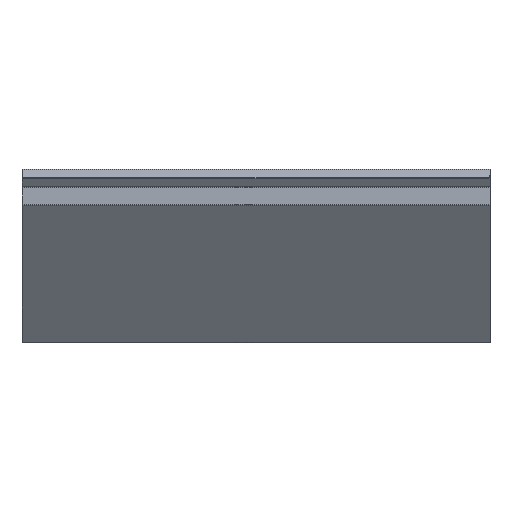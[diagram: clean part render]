
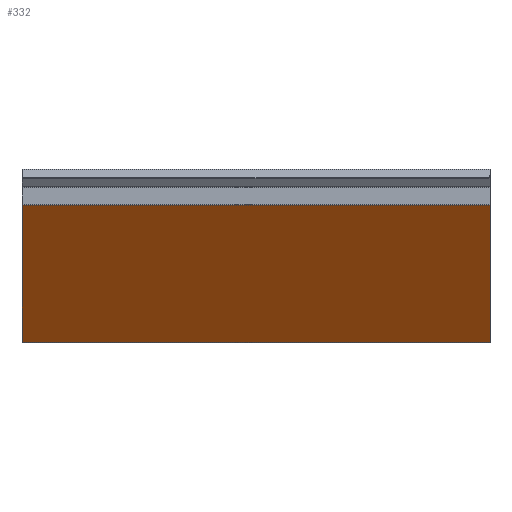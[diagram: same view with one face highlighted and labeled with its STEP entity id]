
A CAD part, front view. The second image highlights one B-rep face of the part: STEP entity #332.
In plain terms, the highlighted planar face has unit normal (0, -0.799, -0.602).
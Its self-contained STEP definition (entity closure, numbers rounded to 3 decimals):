
#10 = VECTOR ( 'NONE', #909, 1000. ) ;
#71 = VERTEX_POINT ( 'NONE', #1373 ) ;
#82 = DIRECTION ( 'NONE',  ( 0., 0.799, 0.602 ) ) ;
#122 = VERTEX_POINT ( 'NONE', #2536 ) ;
#132 = ORIENTED_EDGE ( 'NONE', *, *, #1609, .F. ) ;
#332 = ADVANCED_FACE ( 'NONE', ( #2671 ), #1716, .F. ) ;
#598 = DIRECTION ( 'NONE',  ( 0., -0.602, 0.799 ) ) ;
#680 = VECTOR ( 'NONE', #2421, 1000. ) ;
#758 = EDGE_CURVE ( 'NONE', #71, #1389, #865, .T. ) ;
#799 = EDGE_LOOP ( 'NONE', ( #1356, #1421, #132, #2146 ) ) ;
#812 = VECTOR ( 'NONE', #2696, 1000. ) ;
#848 = DIRECTION ( 'NONE',  ( 0., -0.602, 0.799 ) ) ;
#865 = LINE ( 'NONE', #1737, #2298 ) ;
#909 = DIRECTION ( 'NONE',  ( -1., 0., 0. ) ) ;
#915 = EDGE_CURVE ( 'NONE', #1389, #2562, #2991, .T. ) ;
#1041 = LINE ( 'NONE', #2935, #680 ) ;
#1201 = AXIS2_PLACEMENT_3D ( 'NONE', #2431, #82, #598 ) ;
#1356 = ORIENTED_EDGE ( 'NONE', *, *, #915, .T. ) ;
#1373 = CARTESIAN_POINT ( 'NONE',  ( 610., -52.092, -184.025 ) ) ;
#1389 = VERTEX_POINT ( 'NONE', #1463 ) ;
#1421 = ORIENTED_EDGE ( 'NONE', *, *, #2461, .T. ) ;
#1463 = CARTESIAN_POINT ( 'NONE',  ( 610., -186.368, -5.834 ) ) ;
#1609 = EDGE_CURVE ( 'NONE', #71, #122, #1041, .T. ) ;
#1654 = CARTESIAN_POINT ( 'NONE',  ( 0., -186.368, -5.834 ) ) ;
#1716 = PLANE ( 'NONE',  #1201 ) ;
#1737 = CARTESIAN_POINT ( 'NONE',  ( 610., -186.569, -5.567 ) ) ;
#2146 = ORIENTED_EDGE ( 'NONE', *, *, #758, .T. ) ;
#2251 = LINE ( 'NONE', #2988, #812 ) ;
#2298 = VECTOR ( 'NONE', #848, 1000. ) ;
#2421 = DIRECTION ( 'NONE',  ( -1., 0., 0. ) ) ;
#2431 = CARTESIAN_POINT ( 'NONE',  ( 0., -140.24, -67.048 ) ) ;
#2461 = EDGE_CURVE ( 'NONE', #2562, #122, #2251, .T. ) ;
#2536 = CARTESIAN_POINT ( 'NONE',  ( 0., -52.092, -184.025 ) ) ;
#2562 = VERTEX_POINT ( 'NONE', #1654 ) ;
#2671 = FACE_OUTER_BOUND ( 'NONE', #799, .T. ) ;
#2696 = DIRECTION ( 'NONE',  ( 0., 0.602, -0.799 ) ) ;
#2935 = CARTESIAN_POINT ( 'NONE',  ( 0., -52.092, -184.025 ) ) ;
#2988 = CARTESIAN_POINT ( 'NONE',  ( 0., -51.792, -184.423 ) ) ;
#2991 = LINE ( 'NONE', #3005, #10 ) ;
#3005 = CARTESIAN_POINT ( 'NONE',  ( 610., -186.368, -5.834 ) ) ;
